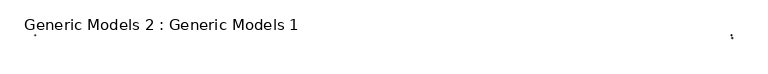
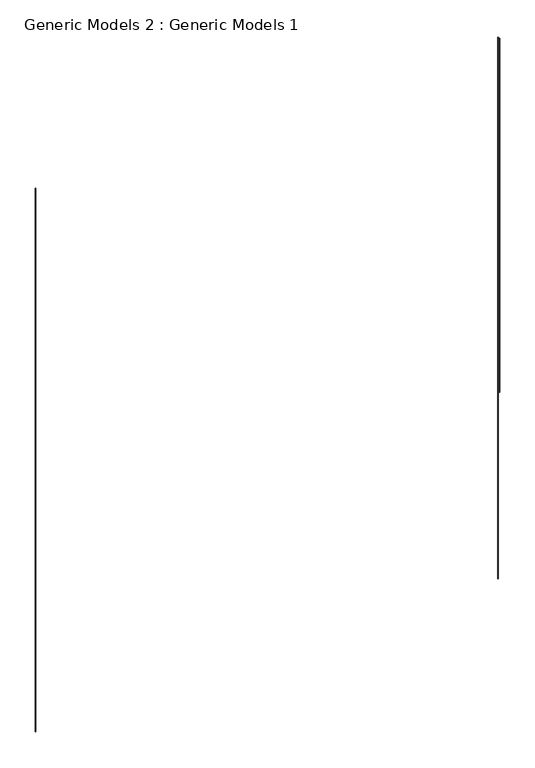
"""IFC4 building model written with IfcOpenShell, lengths in millimetres: proxy geometry, Generic Models 2 : Generic Models 1."""

from ifc_helpers import new_model, si_unit, point, frame, frame_2d, origin, place, context, project, spatial, circle_curve, trimmed, segment, composite_curve, outline, extrude, source, transform, mapped, element, save


def generic_models_2_generic_models_1_bb24c18d(model_context):
    return source(origin(), model_context, "Body", "SweptSolid", [
        extrude(outline(composite_curve([segment(trimmed(circle_curve(frame_2d((1220.8823571, 1801.311116)), 1.0875352), [point((1219.7948219, 1801.311116))], [point((1221.9698922, 1801.311116))], False, "CARTESIAN"), True, "CONTINUOUS"), segment(trimmed(circle_curve(frame_2d((1220.8823571, 1801.311116)), 1.0875352), [point((1221.9698922, 1801.311116))], [point((1219.7948219, 1801.311116))], False, "CARTESIAN"), True, "CONTINUOUS")], self_intersect=False)), frame((0.0, 0.0, 2999.0640172), z_axis=(0.0, 0.0, 1.0), x_axis=(1.0, 0.0, 0.0)), (0.0, 0.0, 1.0), 1837.4866443),
        extrude(outline(composite_curve([segment(trimmed(circle_curve(frame_2d((1218.2404014, 1810.9175115)), 1.0875352), [point((1217.1528662, 1810.9175115))], [point((1219.3279366, 1810.9175115))], False, "CARTESIAN"), True, "CONTINUOUS"), segment(trimmed(circle_curve(frame_2d((1218.2404014, 1810.9175115)), 1.0875352), [point((1219.3279366, 1810.9175115))], [point((1217.1528662, 1810.9175115))], False, "CARTESIAN"), True, "CONTINUOUS")], self_intersect=False)), frame((0.0, 0.0, 2024.973402), z_axis=(0.0, 0.0, 1.0), x_axis=(1.0, 0.0, 0.0)), (0.0, 0.0, 1.0), 2811.5772594),
        extrude(outline(composite_curve([segment(trimmed(circle_curve(frame_2d((-1055.9601486, 1810.9175115)), 1.0875352), [point((-1057.0476838, 1810.9175115))], [point((-1054.8726134, 1810.9175115))], False, "CARTESIAN"), True, "CONTINUOUS"), segment(trimmed(circle_curve(frame_2d((-1055.9601486, 1810.9175115)), 1.0875352), [point((-1054.8726134, 1810.9175115))], [point((-1057.0476838, 1810.9175115))], False, "CARTESIAN"), True, "CONTINUOUS")], self_intersect=False)), frame((0.0, 0.0, 2024.973402), z_axis=(0.0, 0.0, 1.0), x_axis=(1.0, 0.0, 0.0)), (0.0, 0.0, 1.0), 2823.4589529),
    ])


if __name__ == "__main__":
    model = new_model("IFC4")
    model_context = context("Model", 3, world=origin())
    ifc_project = project(units=[si_unit("LENGTHUNIT", "METRE", prefix="MILLI")], contexts=[model_context])
    site = spatial("IfcSite", under=ifc_project)
    building = spatial("IfcBuilding", under=site)
    placement = place(None, origin())
    generic_models_2_generic_models_1_shape = generic_models_2_generic_models_1_bb24c18d(model_context)
    element("IfcBuildingElementProxy", 1, Name="Generic Models 2 : Generic Models 1", ObjectType="Generic Models 2 : Generic Models 1", at=placement, inside=building, context=model_context, shape_type="MappedRepresentation", body=[
        mapped(generic_models_2_generic_models_1_shape, transform((0.0, 0.0, 0.0), x_axis=(1.0, 0.0, 0.0), y_axis=(0.0, 1.0, 0.0), z_axis=(0.0, 0.0, 1.0))),
    ])
    save(model, "model.ifc")
